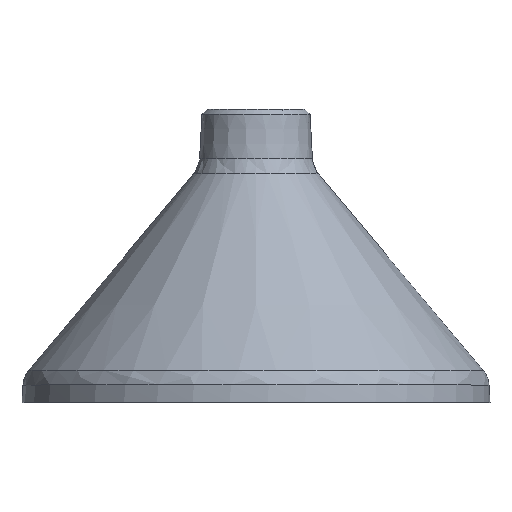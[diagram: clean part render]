
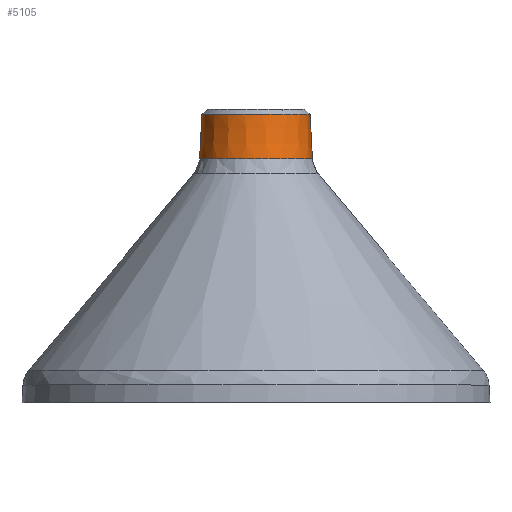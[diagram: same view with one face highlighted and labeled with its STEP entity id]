
A CAD part, top view. The second image highlights one B-rep face of the part: STEP entity #5105.
In plain terms, the highlighted conical face has half-angle 3 degrees and reference radius 28.697 mm.
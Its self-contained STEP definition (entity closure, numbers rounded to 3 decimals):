
#3 = CARTESIAN_POINT ( 'NONE',  ( 26.166, 0.063, 12.637 ) ) ;
#121 = CARTESIAN_POINT ( 'NONE',  ( -1.8, 22.863, 27.502 ) ) ;
#128 = CARTESIAN_POINT ( 'NONE',  ( 28.445, 0.063, 4.808 ) ) ;
#187 = CARTESIAN_POINT ( 'NONE',  ( -23.867, 22.863, 13.783 ) ) ;
#194 = CARTESIAN_POINT ( 'NONE',  ( -26.166, 0.063, 12.637 ) ) ;
#367 = CARTESIAN_POINT ( 'NONE',  ( 27.502, 22.863, 0. ) ) ;
#783 = CARTESIAN_POINT ( 'NONE',  ( -27.502, 22.863, 0. ) ) ;
#936 = CARTESIAN_POINT ( 'NONE',  ( 27.502, 22.863, 0. ) ) ;
#1030 = CARTESIAN_POINT ( 'NONE',  ( 13.783, 22.863, 23.867 ) ) ;
#1037 = CARTESIAN_POINT ( 'NONE',  ( -28.697, 0.063, 0. ) ) ;
#1162 = CARTESIAN_POINT ( 'NONE',  ( -15.889, 0.063, 24.467 ) ) ;
#1221 = CARTESIAN_POINT ( 'NONE',  ( 24.72, 22.863, 12.188 ) ) ;
#1304 = CARTESIAN_POINT ( 'NONE',  ( -27.502, 22.863, 0. ) ) ;
#1937 = B_SPLINE_CURVE_WITH_KNOTS ( 'NONE', 3,
 ( #367, #3247, #9284, #2389 ),
 .UNSPECIFIED., .F., .F.,
 ( 4, 4 ),
 ( 0., 1. ),
 .UNSPECIFIED. ) ;
#1961 = VERTEX_POINT ( 'NONE', #783 ) ;
#2014 = CARTESIAN_POINT ( 'NONE',  ( -24.72, 22.863, 12.188 ) ) ;
#2022 = CARTESIAN_POINT ( 'NONE',  ( -23.092, 0.063, 17.518 ) ) ;
#2142 = CARTESIAN_POINT ( 'NONE',  ( 18.174, 22.863, 20.72 ) ) ;
#2151 = CARTESIAN_POINT ( 'NONE',  ( 27.942, 0.063, 7.177 ) ) ;
#2152 = EDGE_CURVE ( 'NONE', #6975, #7401, #3739, .T. ) ;
#2305 = B_SPLINE_CURVE_WITH_KNOTS ( 'NONE', 3,
 ( #12130, #6073, #7988, #3125, #7122, #2014, #187, #4186, #3056, #6008, #11080, #7058, #11998, #10087, #8969, #9100, #121, #12967, #10023, #11146, #8179, #6138, #1030, #5037, #2142, #12197, #7184, #11208, #1221, #9035, #3964, #9865, #7710, #936 ),
 .UNSPECIFIED., .F., .F.,
 ( 4, 2, 2, 2, 2, 2, 2, 2, 2, 2, 2, 2, 2, 2, 2, 2, 4 ),
 ( 0., 0.063, 0.125, 0.188, 0.25, 0.313, 0.375, 0.438, 0.5, 0.562, 0.625, 0.687, 0.75, 0.813, 0.875, 0.938, 1. ),
 .UNSPECIFIED. ) ;
#2353 = VERTEX_POINT ( 'NONE', #3561 ) ;
#2389 = CARTESIAN_POINT ( 'NONE',  ( 28.697, 0.063, 0. ) ) ;
#2695 = CARTESIAN_POINT ( 'NONE',  ( 28.697, 0.063, 0. ) ) ;
#2999 = CARTESIAN_POINT ( 'NONE',  ( -9.826, 0.063, 27.269 ) ) ;
#3056 = CARTESIAN_POINT ( 'NONE',  ( -20.72, 22.863, 18.174 ) ) ;
#3125 = CARTESIAN_POINT ( 'NONE',  ( -26.623, 22.863, 7.131 ) ) ;
#3196 = CARTESIAN_POINT ( 'NONE',  ( -27.942, 0.063, 7.177 ) ) ;
#3247 = CARTESIAN_POINT ( 'NONE',  ( 27.901, 15.263, 0. ) ) ;
#3278 = CARTESIAN_POINT ( 'NONE',  ( -28.299, 7.663, 0. ) ) ;
#3406 = B_SPLINE_CURVE_WITH_KNOTS ( 'NONE', 3,
 ( #1304, #5247, #3278, #11297 ),
 .UNSPECIFIED., .F., .F.,
 ( 4, 4 ),
 ( 0., 1. ),
 .UNSPECIFIED. ) ;
#3516 = ORIENTED_EDGE ( 'NONE', *, *, #12426, .F. ) ;
#3561 = CARTESIAN_POINT ( 'NONE',  ( 27.502, 22.863, 0. ) ) ;
#3739 = B_SPLINE_CURVE_WITH_KNOTS ( 'NONE', 5,
 ( #7064, #8976, #128, #2151, #3, #4131, #9959, #4979, #6145, #9176, #10095, #5045, #2999, #1162, #4194, #2022, #194, #3196, #10032, #6923, #1037 ),
 .UNSPECIFIED., .F., .F.,
 ( 6, 3, 3, 3, 3, 3, 6 ),
 ( 0., 0.133, 0.317, 0.5, 0.683, 0.867, 1. ),
 .UNSPECIFIED. ) ;
#3964 = CARTESIAN_POINT ( 'NONE',  ( 26.623, 22.863, 7.131 ) ) ;
#4115 = CONICAL_SURFACE ( 'NONE', #10195, 28.697, 0.052 ) ;
#4131 = CARTESIAN_POINT ( 'NONE',  ( 23.092, 0.063, 17.518 ) ) ;
#4186 = CARTESIAN_POINT ( 'NONE',  ( -21.867, 22.863, 16.776 ) ) ;
#4194 = CARTESIAN_POINT ( 'NONE',  ( -20.915, 0.063, 20.067 ) ) ;
#4580 = EDGE_CURVE ( 'NONE', #1961, #7401, #3406, .T. ) ;
#4979 = CARTESIAN_POINT ( 'NONE',  ( 15.889, 0.063, 24.467 ) ) ;
#5037 = CARTESIAN_POINT ( 'NONE',  ( 16.776, 22.863, 21.867 ) ) ;
#5045 = CARTESIAN_POINT ( 'NONE',  ( -6.611, 0.063, 28.221 ) ) ;
#5060 = ORIENTED_EDGE ( 'NONE', *, *, #2152, .F. ) ;
#5077 = ORIENTED_EDGE ( 'NONE', *, *, #4580, .T. ) ;
#5105 = ADVANCED_FACE ( 'NONE', ( #11472 ), #4115, .T. ) ;
#5247 = CARTESIAN_POINT ( 'NONE',  ( -27.901, 15.263, 0. ) ) ;
#5357 = CARTESIAN_POINT ( 'NONE',  ( 0., 0.063, 0. ) ) ;
#5452 = ORIENTED_EDGE ( 'NONE', *, *, #8886, .F. ) ;
#5899 = EDGE_LOOP ( 'NONE', ( #5060, #5452, #3516, #5077 ) ) ;
#6008 = CARTESIAN_POINT ( 'NONE',  ( -18.174, 22.863, 20.72 ) ) ;
#6073 = CARTESIAN_POINT ( 'NONE',  ( -27.502, 22.863, 1.8 ) ) ;
#6138 = CARTESIAN_POINT ( 'NONE',  ( 12.188, 22.863, 24.72 ) ) ;
#6145 = CARTESIAN_POINT ( 'NONE',  ( 9.826, 0.063, 27.269 ) ) ;
#6923 = CARTESIAN_POINT ( 'NONE',  ( -28.697, 0.063, 2.404 ) ) ;
#6975 = VERTEX_POINT ( 'NONE', #2695 ) ;
#7058 = CARTESIAN_POINT ( 'NONE',  ( -13.783, 22.863, 23.867 ) ) ;
#7064 = CARTESIAN_POINT ( 'NONE',  ( 28.697, 0.063, 0. ) ) ;
#7122 = CARTESIAN_POINT ( 'NONE',  ( -26.098, 22.863, 8.862 ) ) ;
#7184 = CARTESIAN_POINT ( 'NONE',  ( 21.867, 22.863, 16.776 ) ) ;
#7386 = DIRECTION ( 'NONE',  ( 1., 0., 0. ) ) ;
#7401 = VERTEX_POINT ( 'NONE', #12573 ) ;
#7710 = CARTESIAN_POINT ( 'NONE',  ( 27.502, 22.863, 1.8 ) ) ;
#7988 = CARTESIAN_POINT ( 'NONE',  ( -27.325, 22.863, 3.6 ) ) ;
#8179 = CARTESIAN_POINT ( 'NONE',  ( 8.862, 22.863, 26.098 ) ) ;
#8886 = EDGE_CURVE ( 'NONE', #2353, #6975, #1937, .T. ) ;
#8969 = CARTESIAN_POINT ( 'NONE',  ( -7.131, 22.863, 26.623 ) ) ;
#8976 = CARTESIAN_POINT ( 'NONE',  ( 28.697, 0.063, 2.404 ) ) ;
#9035 = CARTESIAN_POINT ( 'NONE',  ( 26.098, 22.863, 8.862 ) ) ;
#9100 = CARTESIAN_POINT ( 'NONE',  ( -3.6, 22.863, 27.325 ) ) ;
#9176 = CARTESIAN_POINT ( 'NONE',  ( 6.611, 0.063, 28.221 ) ) ;
#9284 = CARTESIAN_POINT ( 'NONE',  ( 28.299, 7.663, 0. ) ) ;
#9374 = DIRECTION ( 'NONE',  ( 0., -1., 0. ) ) ;
#9865 = CARTESIAN_POINT ( 'NONE',  ( 27.325, 22.863, 3.6 ) ) ;
#9959 = CARTESIAN_POINT ( 'NONE',  ( 20.915, 0.063, 20.067 ) ) ;
#10023 = CARTESIAN_POINT ( 'NONE',  ( 3.6, 22.863, 27.325 ) ) ;
#10032 = CARTESIAN_POINT ( 'NONE',  ( -28.445, 0.063, 4.808 ) ) ;
#10087 = CARTESIAN_POINT ( 'NONE',  ( -8.862, 22.863, 26.098 ) ) ;
#10095 = CARTESIAN_POINT ( 'NONE',  ( 0., 0.063, 29.173 ) ) ;
#10195 = AXIS2_PLACEMENT_3D ( 'NONE', #5357, #9374, #7386 ) ;
#11080 = CARTESIAN_POINT ( 'NONE',  ( -16.776, 22.863, 21.867 ) ) ;
#11146 = CARTESIAN_POINT ( 'NONE',  ( 7.131, 22.863, 26.623 ) ) ;
#11208 = CARTESIAN_POINT ( 'NONE',  ( 23.867, 22.863, 13.783 ) ) ;
#11297 = CARTESIAN_POINT ( 'NONE',  ( -28.697, 0.063, 0. ) ) ;
#11472 = FACE_OUTER_BOUND ( 'NONE', #5899, .T. ) ;
#11998 = CARTESIAN_POINT ( 'NONE',  ( -12.188, 22.863, 24.72 ) ) ;
#12130 = CARTESIAN_POINT ( 'NONE',  ( -27.502, 22.863, 0. ) ) ;
#12197 = CARTESIAN_POINT ( 'NONE',  ( 20.72, 22.863, 18.174 ) ) ;
#12426 = EDGE_CURVE ( 'NONE', #1961, #2353, #2305, .T. ) ;
#12573 = CARTESIAN_POINT ( 'NONE',  ( -28.697, 0.063, 0. ) ) ;
#12967 = CARTESIAN_POINT ( 'NONE',  ( 1.8, 22.863, 27.502 ) ) ;
